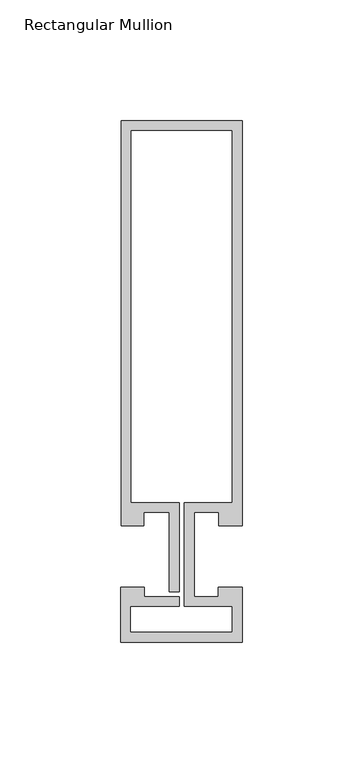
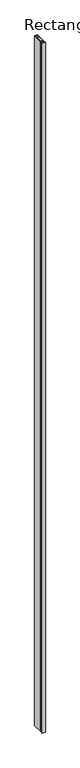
"""IFC4 building model written with IfcOpenShell, lengths in millimetres: member geometry, Rectangular Mullion : Reynaers_CW-50_Transom-Transom_167.5mm_Facecap-02C."""

from ifc_helpers import new_model, si_unit, frame, origin, place, context, project, spatial, polyline, outline, extrude, source, transform, mapped, element, save


def rectangular_mullion_4c7a41ba(model_context):
    return source(origin(), model_context, "Body", "SweptSolid", [
        extrude(outline(polyline([(25.1995941, -12.7331291), (25.1995941, -35.5313894), (-24.994845, -35.5313894), (-24.994845, -12.7331291), (-15.2996495, -12.7331291), (-15.2996495, -16.7331291), (-0.9004059, -16.7331291), (-0.9004059, -20.7331291), (-20.994845, -20.7331291), (-20.994845, -31.5313894), (21.1995941, -31.5313894), (21.1995941, -20.7331291), (1.2995941, -20.7331291), (1.2995941, 22.1331291), (21.1995941, 22.1331291), (21.1995941, 176.2331291), (-20.8004059, 176.2331291), (-20.8004059, 22.1331291), (-0.9004059, 22.1331291), (-0.9004059, -14.7331291), (-4.9004059, -14.7331291), (-4.9004059, 18.1331291), (-15.499, 18.1331291), (-15.499, 12.7331291), (-24.8004059, 12.7331291), (-24.8004059, 180.2331291), (25.1995941, 180.2331291), (25.1995941, 12.7331291), (15.499, 12.7331291), (15.499, 18.1331291), (5.2995941, 18.1331291), (5.2995941, -16.7331291), (15.2996495, -16.7331291), (15.2996495, -12.7331291), (25.1995941, -12.7331291)])), frame((0.0, 0.0, -12000.0), z_axis=(0.0, 0.0, 1.0), x_axis=(1.0, 0.0, 0.0)), (0.0, 0.0, 1.0), 12000.0),
    ])


if __name__ == "__main__":
    model = new_model("IFC4")
    model_context = context("Model", 3, world=origin())
    ifc_project = project(units=[si_unit("LENGTHUNIT", "METRE", prefix="MILLI")], contexts=[model_context])
    site = spatial("IfcSite", under=ifc_project)
    building = spatial("IfcBuilding", under=site)
    placement = place(None, origin())
    rectangular_mullion_shape = rectangular_mullion_4c7a41ba(model_context)
    element("IfcMember", 1, ObjectType="Rectangular Mullion : Reynaers_CW-50_Transom-Transom_167.5mm_Facecap-02C", at=placement, inside=building, context=model_context, shape_type="MappedRepresentation", body=[
        mapped(rectangular_mullion_shape, transform((0.0, 0.0, 0.0), x_axis=(1.0, 0.0, 0.0), y_axis=(0.0, 1.0, 0.0), z_axis=(0.0, 0.0, 1.0))),
    ])
    save(model, "model.ifc")
